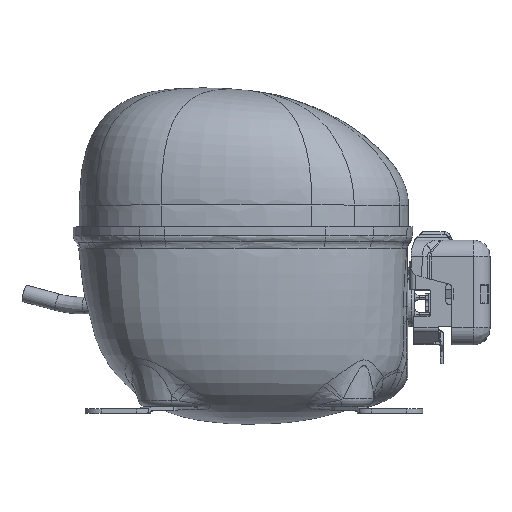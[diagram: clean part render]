
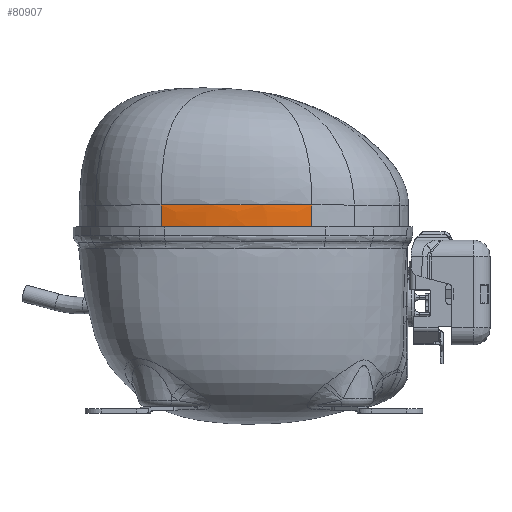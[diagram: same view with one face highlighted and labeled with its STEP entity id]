
A CAD part, top view. The second image highlights one B-rep face of the part: STEP entity #80907.
In plain terms, the highlighted free-form (B-spline) face has degree [5, 5] with [6, 11] control points.
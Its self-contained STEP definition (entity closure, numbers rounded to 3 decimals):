
#77585=CARTESIAN_POINT('',(-50.024,0.,
74.949));
#77586=CARTESIAN_POINT('',(-50.024,6.833,
74.949));
#77587=CARTESIAN_POINT('',(-50.024,13.667,
74.949));
#77588=CARTESIAN_POINT('',(-50.024,20.5,
74.949));
#77590=CARTESIAN_POINT('',(41.163,0.,
74.07));
#77591=CARTESIAN_POINT('',(41.163,6.833,74.07));
#77592=CARTESIAN_POINT('',(41.163,13.667,74.07));
#77593=CARTESIAN_POINT('',(41.163,20.5,74.07));
#77595=CARTESIAN_POINT('',(-50.024,20.5,
74.949));
#77596=CARTESIAN_POINT('',(-48.172,20.5,
75.39));
#77597=CARTESIAN_POINT('',(-44.471,20.5,
76.213));
#77598=CARTESIAN_POINT('',(-37.081,20.5,
77.626));
#77599=CARTESIAN_POINT('',(-27.883,20.5,
78.96));
#77600=CARTESIAN_POINT('',(-16.959,20.5,
79.898));
#77601=CARTESIAN_POINT('',(-7.768,20.5,
80.156));
#77602=CARTESIAN_POINT('',(-0.242,20.5,
80.037));
#77603=CARTESIAN_POINT('',(7.649,20.5,79.664));
#77604=CARTESIAN_POINT('',(15.498,20.5,78.924));
#77605=CARTESIAN_POINT('',(23.357,20.5,77.806));
#77606=CARTESIAN_POINT('',(29.268,20.5,76.775));
#77607=CARTESIAN_POINT('',(35.201,20.5,75.544));
#77608=CARTESIAN_POINT('',(39.173,20.5,74.585));
#77609=CARTESIAN_POINT('',(41.163,20.5,74.07));
#77648=CARTESIAN_POINT('',(41.163,20.5,74.07));
#78256=CARTESIAN_POINT('',(-50.024,0.,
74.949));
#78258=CARTESIAN_POINT('',(-50.024,0.,
74.949));
#78259=CARTESIAN_POINT('',(-48.157,0.,
75.394));
#78260=CARTESIAN_POINT('',(-44.411,0.,
76.227));
#78261=CARTESIAN_POINT('',(-36.87,0.,
77.664));
#78262=CARTESIAN_POINT('',(-27.37,0.,
79.028));
#78263=CARTESIAN_POINT('',(-15.891,0.,
79.968));
#78264=CARTESIAN_POINT('',(-4.375,0.,
80.208));
#78265=CARTESIAN_POINT('',(7.134,0.,
79.746));
#78266=CARTESIAN_POINT('',(18.592,0.,
78.585));
#78267=CARTESIAN_POINT('',(28.065,0.,
77.038));
#78268=CARTESIAN_POINT('',(35.576,0.,
75.455));
#78269=CARTESIAN_POINT('',(39.306,0.,
74.55));
#78270=CARTESIAN_POINT('',(41.163,0.,
74.07));
#79359=VERTEX_POINT('',#78256);
#79360=VERTEX_POINT('',#78270);
#79406=VERTEX_POINT('',#77648);
#79407=VERTEX_POINT('',#77595);
#80831=CARTESIAN_POINT('',(-50.024,0.,74.949));
#80832=CARTESIAN_POINT('',(-47.784,0.,75.483));
#80833=CARTESIAN_POINT('',(-43.289,0.,76.482));
#80834=CARTESIAN_POINT('',(-34.236,0.,78.207));
#80835=CARTESIAN_POINT('',(-20.517,0.,79.965));
#80836=CARTESIAN_POINT('',(-4.372,0.,80.548));
#80837=CARTESIAN_POINT('',(11.759,0.,79.654));
#80838=CARTESIAN_POINT('',(25.441,0.,77.632));
#80839=CARTESIAN_POINT('',(34.459,0.,75.732));
#80840=CARTESIAN_POINT('',(38.934,0.,74.647));
#80841=CARTESIAN_POINT('',(41.163,0.,74.07));
#80842=CARTESIAN_POINT('',(-50.024,4.1,
74.949));
#80843=CARTESIAN_POINT('',(-47.784,4.1,
75.483));
#80844=CARTESIAN_POINT('',(-43.289,4.1,
76.482));
#80845=CARTESIAN_POINT('',(-34.236,4.1,
78.207));
#80846=CARTESIAN_POINT('',(-20.517,4.1,
79.965));
#80847=CARTESIAN_POINT('',(-4.372,4.1,
80.548));
#80848=CARTESIAN_POINT('',(11.759,4.1,79.654));
#80849=CARTESIAN_POINT('',(25.441,4.1,77.632));
#80850=CARTESIAN_POINT('',(34.459,4.1,75.732));
#80851=CARTESIAN_POINT('',(38.934,4.1,74.647));
#80852=CARTESIAN_POINT('',(41.163,4.1,74.07));
#80853=CARTESIAN_POINT('',(-50.024,8.2,
74.949));
#80854=CARTESIAN_POINT('',(-47.784,8.2,
75.483));
#80855=CARTESIAN_POINT('',(-43.289,8.2,
76.482));
#80856=CARTESIAN_POINT('',(-34.236,8.2,
78.207));
#80857=CARTESIAN_POINT('',(-20.517,8.2,
79.965));
#80858=CARTESIAN_POINT('',(-4.372,8.2,
80.548));
#80859=CARTESIAN_POINT('',(11.759,8.2,79.654));
#80860=CARTESIAN_POINT('',(25.441,8.2,77.632));
#80861=CARTESIAN_POINT('',(34.459,8.2,75.732));
#80862=CARTESIAN_POINT('',(38.934,8.2,74.647));
#80863=CARTESIAN_POINT('',(41.163,8.2,74.07));
#80864=CARTESIAN_POINT('',(-50.024,12.3,
74.949));
#80865=CARTESIAN_POINT('',(-47.784,12.3,
75.483));
#80866=CARTESIAN_POINT('',(-43.289,12.3,
76.482));
#80867=CARTESIAN_POINT('',(-34.236,12.3,
78.207));
#80868=CARTESIAN_POINT('',(-20.517,12.3,
79.965));
#80869=CARTESIAN_POINT('',(-4.372,12.3,
80.548));
#80870=CARTESIAN_POINT('',(11.759,12.3,79.654));
#80871=CARTESIAN_POINT('',(25.441,12.3,77.632));
#80872=CARTESIAN_POINT('',(34.459,12.3,75.732));
#80873=CARTESIAN_POINT('',(38.934,12.3,74.647));
#80874=CARTESIAN_POINT('',(41.163,12.3,74.07));
#80875=CARTESIAN_POINT('',(-50.024,16.4,
74.949));
#80876=CARTESIAN_POINT('',(-47.784,16.4,
75.483));
#80877=CARTESIAN_POINT('',(-43.289,16.4,
76.482));
#80878=CARTESIAN_POINT('',(-34.236,16.4,
78.207));
#80879=CARTESIAN_POINT('',(-20.517,16.4,
79.965));
#80880=CARTESIAN_POINT('',(-4.372,16.4,
80.548));
#80881=CARTESIAN_POINT('',(11.759,16.4,79.654));
#80882=CARTESIAN_POINT('',(25.441,16.4,77.632));
#80883=CARTESIAN_POINT('',(34.459,16.4,75.732));
#80884=CARTESIAN_POINT('',(38.934,16.4,74.647));
#80885=CARTESIAN_POINT('',(41.163,16.4,74.07));
#80886=CARTESIAN_POINT('',(-50.024,20.5,
74.949));
#80887=CARTESIAN_POINT('',(-47.784,20.5,
75.483));
#80888=CARTESIAN_POINT('',(-43.289,20.5,
76.482));
#80889=CARTESIAN_POINT('',(-34.236,20.5,
78.207));
#80890=CARTESIAN_POINT('',(-20.517,20.5,
79.965));
#80891=CARTESIAN_POINT('',(-4.372,20.5,
80.548));
#80892=CARTESIAN_POINT('',(11.759,20.5,79.654));
#80893=CARTESIAN_POINT('',(25.441,20.5,77.632));
#80894=CARTESIAN_POINT('',(34.459,20.5,75.732));
#80895=CARTESIAN_POINT('',(38.934,20.5,74.647));
#80896=CARTESIAN_POINT('',(41.163,20.5,74.07));
#80897=B_SPLINE_SURFACE_WITH_KNOTS('',5,5,((#80831,#80832,#80833,#80834,#80835,
#80836,#80837,#80838,#80839,#80840,#80841),(#80842,#80843,#80844,#80845,#80846,
#80847,#80848,#80849,#80850,#80851,#80852),(#80853,#80854,#80855,#80856,#80857,
#80858,#80859,#80860,#80861,#80862,#80863),(#80864,#80865,#80866,#80867,#80868,
#80869,#80870,#80871,#80872,#80873,#80874),(#80875,#80876,#80877,#80878,#80879,
#80880,#80881,#80882,#80883,#80884,#80885),(#80886,#80887,#80888,#80889,#80890,
#80891,#80892,#80893,#80894,#80895,#80896)),.UNSPECIFIED.,.F.,.F.,.F.,(6,6),(6,
1,1,1,1,1,6),(0.,1.),(0.666,0.685,0.705,
0.744,0.783,0.803,0.823),.UNSPECIFIED.);
#80899=ORIENTED_EDGE('',*,*,#80898,.T.);
#80901=ORIENTED_EDGE('',*,*,#80900,.F.);
#80903=ORIENTED_EDGE('',*,*,#80902,.F.);
#80904=ORIENTED_EDGE('',*,*,#80823,.T.);
#80905=EDGE_LOOP('',(#80899,#80901,#80903,#80904));
#80906=FACE_OUTER_BOUND('',#80905,.F.);
#80907=ADVANCED_FACE('',(#80906),#80897,.F.);
#77589=B_SPLINE_CURVE_WITH_KNOTS('',3,(#77585,#77586,#77587,#77588),
.UNSPECIFIED.,.F.,.F.,(4,4),(0.,1.),.UNSPECIFIED.);
#77594=B_SPLINE_CURVE_WITH_KNOTS('',3,(#77590,#77591,#77592,#77593),
.UNSPECIFIED.,.F.,.F.,(4,4),(0.,1.),.UNSPECIFIED.);
#77610=B_SPLINE_CURVE_WITH_KNOTS('',3,(#77595,#77596,#77597,#77598,#77599,
#77600,#77601,#77602,#77603,#77604,#77605,#77606,#77607,#77608,#77609),
.UNSPECIFIED.,.F.,.F.,(4,1,1,1,1,1,1,1,1,1,1,1,4),(0.,0.059,
0.118,0.236,0.355,0.473,
0.539,0.605,0.736,0.802,
0.868,0.934,1.),.UNSPECIFIED.);
#78271=B_SPLINE_CURVE_WITH_KNOTS('',3,(#78258,#78259,#78260,#78261,#78262,
#78263,#78264,#78265,#78266,#78267,#78268,#78269,#78270),.UNSPECIFIED.,.F.,.F.,(
4,1,1,1,1,1,1,1,1,1,4),(0.,0.063,0.125,
0.25,0.375,0.5,0.625,
0.75,0.875,0.937,1.),.UNSPECIFIED.);
#80823=EDGE_CURVE('',#79359,#79407,#77589,.T.);
#80898=EDGE_CURVE('',#79407,#79406,#77610,.T.);
#80900=EDGE_CURVE('',#79360,#79406,#77594,.T.);
#80902=EDGE_CURVE('',#79359,#79360,#78271,.T.);
